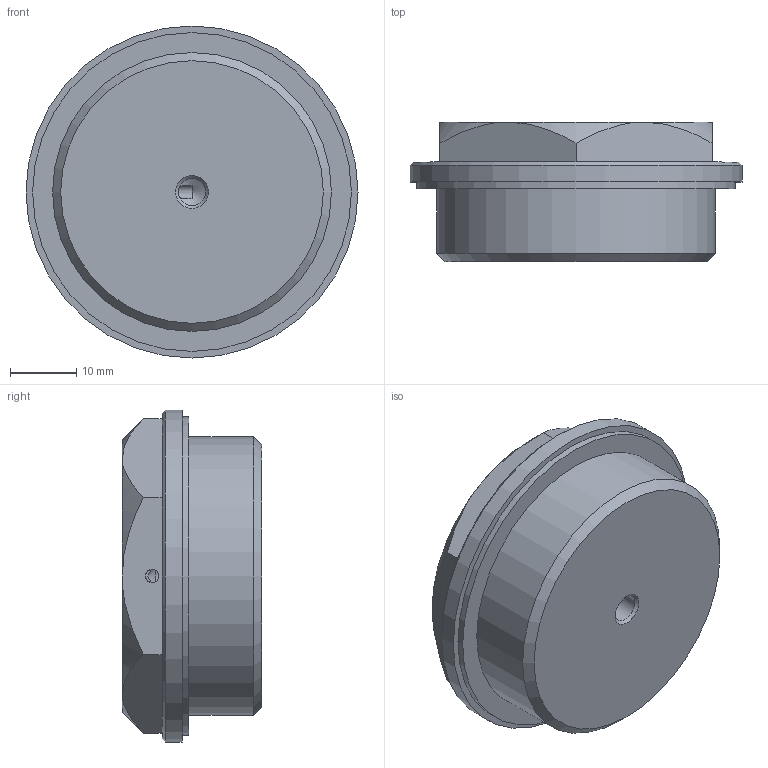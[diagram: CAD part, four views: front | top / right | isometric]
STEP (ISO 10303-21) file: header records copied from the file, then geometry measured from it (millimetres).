
FILE_DESCRIPTION( ( 'STEP AP203' ), '1' );
FILE_NAME( 'C:/Temp/Ganter_Step_05_03_2020/data/3_5/gn742/gn742_2/Threaded plug GN 742-50-M42x2-ASS-2.stp', '2020-03-12T13:39:30', ( 'License CC BY-ND 4.0' ), ( 'CADENAS' ), ' ', 'PARTsolutions', ' ' );
FILE_SCHEMA( ( 'CONFIG_CONTROL_DESIGN' ) );
Length unit declared in the file: millimetre
Products named in the file (1): _Threaded plug GN 742-50-M42x2-ASS-2
Bounding box: 50 x 21 x 50 mm (x, y, z)
Volume: 31141.3 mm3; surface area: 6937.3 mm2
Topology: 1 solids, 1 shells, 54 faces, 134 edges, 86 vertices
Faces by surface type: plane 39, cone 10, cylinder 5
Full cylindrical faces by diameter (mm): 2 x1, 4.134 x1, 42 x1, 48 x1, 50 x1
Entity records: 1651 total; most frequent: CARTESIAN_POINT 381, ORIENTED_EDGE 246, DIRECTION 237, EDGE_CURVE 123, LINE 89, VECTOR 89, VERTEX_POINT 84, AXIS2_PLACEMENT_3D 74
